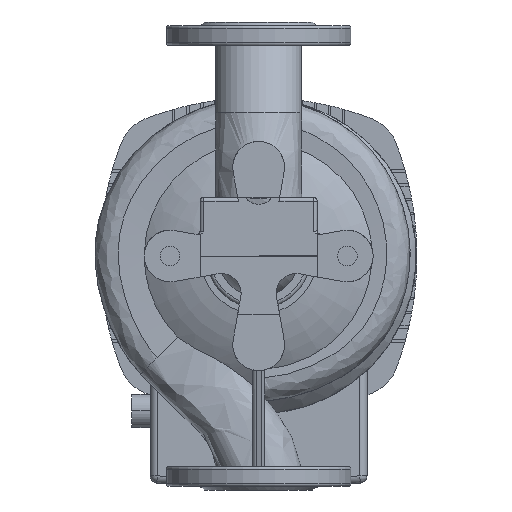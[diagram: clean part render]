
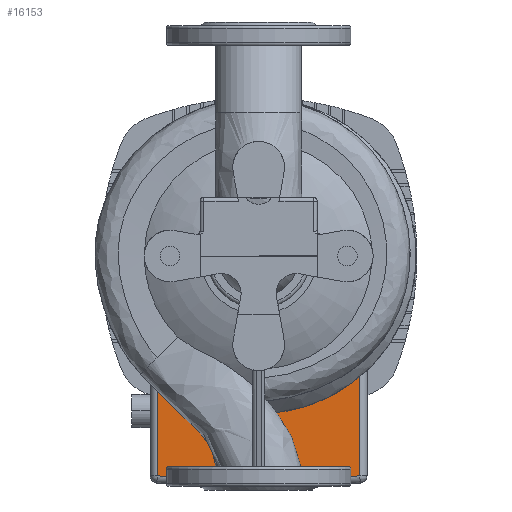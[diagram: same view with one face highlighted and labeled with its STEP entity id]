
A CAD part, front view. The second image highlights one B-rep face of the part: STEP entity #16153.
In plain terms, the highlighted planar face has unit normal (0, -1, 0) as drawn and (0, 0, 1) by its records, which use the part's own axes.
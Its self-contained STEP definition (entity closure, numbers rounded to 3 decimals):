
#596 = PLANE ( 'NONE',  #20808 ) ;
#607 = CARTESIAN_POINT ( 'NONE',  ( 82., 72.569, -140.5 ) ) ;
#1542 = EDGE_CURVE ( 'NONE', #9007, #5559, #3435, .T. ) ;
#3301 = CARTESIAN_POINT ( 'NONE',  ( -82., 128.5, -140.5 ) ) ;
#3435 = LINE ( 'NONE', #3301, #9924 ) ;
#4754 = CARTESIAN_POINT ( 'NONE',  ( 82., 128.5, -140.5 ) ) ;
#5559 = VERTEX_POINT ( 'NONE', #8321 ) ;
#5910 = EDGE_CURVE ( 'NONE', #7473, #9007, #14970, .T. ) ;
#6054 = DIRECTION ( 'NONE',  ( 0., -1., 0. ) ) ;
#7473 = VERTEX_POINT ( 'NONE', #20103 ) ;
#8321 = CARTESIAN_POINT ( 'NONE',  ( -82., 72.569, -140.5 ) ) ;
#9007 = VERTEX_POINT ( 'NONE', #9464 ) ;
#9348 = DIRECTION ( 'NONE',  ( 0., -1., 0. ) ) ;
#9464 = CARTESIAN_POINT ( 'NONE',  ( -82., 178.436, -140.5 ) ) ;
#9924 = VECTOR ( 'NONE', #9348, 1000. ) ;
#10137 = DIRECTION ( 'NONE',  ( 0., 0., 1. ) ) ;
#11347 = ORIENTED_EDGE ( 'NONE', *, *, #5910, .T. ) ;
#11431 = EDGE_CURVE ( 'NONE', #5559, #22097, #17928, .T. ) ;
#12386 = DIRECTION ( 'NONE',  ( 0., 0., -1. ) ) ;
#14002 = ORIENTED_EDGE ( 'NONE', *, *, #21231, .T. ) ;
#14763 = LINE ( 'NONE', #4754, #14998 ) ;
#14970 = CIRCLE ( 'NONE', #22529, 607. ) ;
#14998 = VECTOR ( 'NONE', #18841, 1000. ) ;
#16153 = ADVANCED_FACE ( 'NONE', ( #16414 ), #596, .T. ) ;
#16414 = FACE_OUTER_BOUND ( 'NONE', #18652, .T. ) ;
#17326 = DIRECTION ( 'NONE',  ( 1., 0., 0. ) ) ;
#17928 = CIRCLE ( 'NONE', #21260, 109.5 ) ;
#18284 = CARTESIAN_POINT ( 'NONE',  ( 0., -423., -140.5 ) ) ;
#18652 = EDGE_LOOP ( 'NONE', ( #20157, #14002, #11347, #23098 ) ) ;
#18841 = DIRECTION ( 'NONE',  ( 0., 1., 0. ) ) ;
#19160 = CARTESIAN_POINT ( 'NONE',  ( 0., 0., -140.5 ) ) ;
#20103 = CARTESIAN_POINT ( 'NONE',  ( 82., 178.436, -140.5 ) ) ;
#20157 = ORIENTED_EDGE ( 'NONE', *, *, #11431, .T. ) ;
#20808 = AXIS2_PLACEMENT_3D ( 'NONE', #22436, #24526, #24913 ) ;
#21231 = EDGE_CURVE ( 'NONE', #22097, #7473, #14763, .T. ) ;
#21260 = AXIS2_PLACEMENT_3D ( 'NONE', #19160, #12386, #17326 ) ;
#22097 = VERTEX_POINT ( 'NONE', #607 ) ;
#22436 = CARTESIAN_POINT ( 'NONE',  ( 68., 128.5, -140.5 ) ) ;
#22529 = AXIS2_PLACEMENT_3D ( 'NONE', #18284, #10137, #6054 ) ;
#23098 = ORIENTED_EDGE ( 'NONE', *, *, #1542, .T. ) ;
#24526 = DIRECTION ( 'NONE',  ( 0., 0., 1. ) ) ;
#24913 = DIRECTION ( 'NONE',  ( 0., -1., 0. ) ) ;
